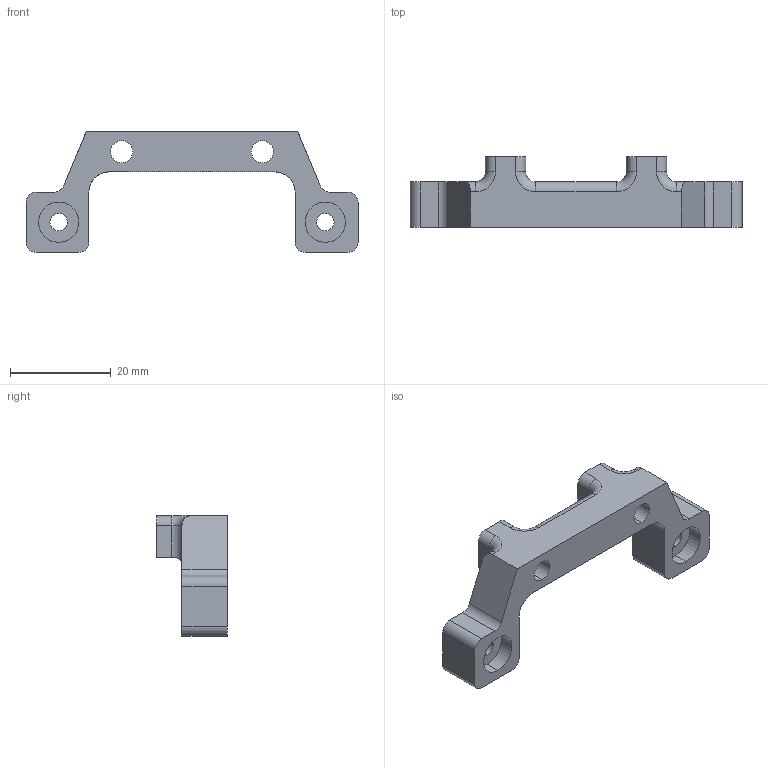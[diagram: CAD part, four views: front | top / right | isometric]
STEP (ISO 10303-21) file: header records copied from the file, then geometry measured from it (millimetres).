
FILE_DESCRIPTION (( 'STEP AP203' ), '1' );
FILE_NAME ('Shock Absorber Extension - Rear Suspension Hub.STEP', '2026-01-17T21:11:00', ( '' ), ( '' ), 'SwSTEP 2.0', 'SolidWorks 2026', '' );
FILE_SCHEMA (( 'CONFIG_CONTROL_DESIGN' ));
Length unit declared in the file: millimetre
Products named in the file (1): Shock Absorber Extension - Rear Suspension Hub
Bounding box: 66 x 14 x 24 mm (x, y, z)
Volume: 6083.1 mm3; surface area: 3965.9 mm2
Topology: 1 solids, 1 shells, 74 faces, 192 edges, 122 vertices
Faces by surface type: cylinder 40, plane 24, torus 8, bspline 2
Entity records: 2423 total; most frequent: CARTESIAN_POINT 469, DIRECTION 416, ORIENTED_EDGE 384, EDGE_CURVE 192, AXIS2_PLACEMENT_3D 159, VERTEX_POINT 122, LINE 98, VECTOR 98
